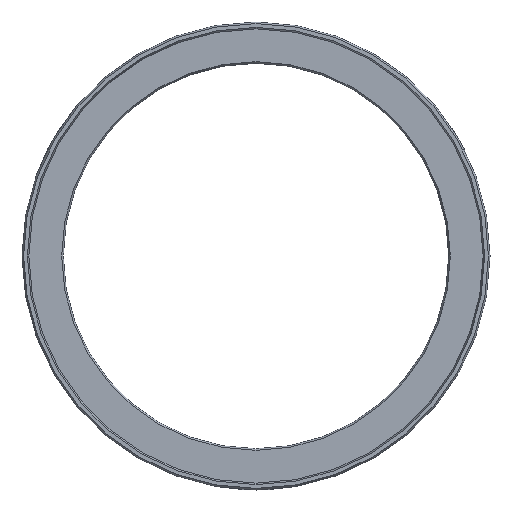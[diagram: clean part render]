
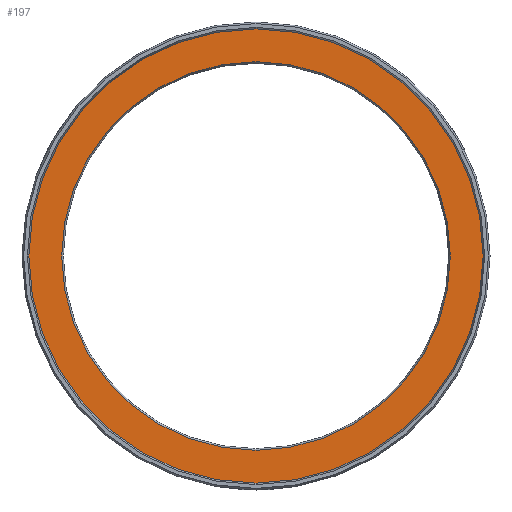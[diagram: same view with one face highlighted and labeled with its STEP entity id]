
A CAD part, left-side view. The second image highlights one B-rep face of the part: STEP entity #197.
In plain terms, the highlighted planar face has unit normal (-1, 0, 0).
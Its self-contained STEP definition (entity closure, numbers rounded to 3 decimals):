
#163=PLANE('',#797);
#197=ADVANCED_FACE('',(#265,#266),#163,.T.);
#265=FACE_BOUND('',#316,.T.);
#266=FACE_BOUND('',#317,.T.);
#316=EDGE_LOOP('',(#471));
#317=EDGE_LOOP('',(#472));
#471=ORIENTED_EDGE('',*,*,#652,.T.);
#472=ORIENTED_EDGE('',*,*,#651,.F.);
#569=VERTEX_POINT('',#1259);
#570=VERTEX_POINT('',#1262);
#651=EDGE_CURVE('',#569,#569,#709,.T.);
#652=EDGE_CURVE('',#570,#570,#710,.T.);
#709=CIRCLE('',#794,82.5);
#710=CIRCLE('',#796,70.577);
#794=AXIS2_PLACEMENT_3D('',#1258,#975,#976);
#796=AXIS2_PLACEMENT_3D('',#1261,#979,#980);
#797=AXIS2_PLACEMENT_3D('',#1263,#981,#982);
#975=DIRECTION('',(1.,0.,0.));
#976=DIRECTION('',(0.,0.,-1.));
#979=DIRECTION('',(1.,0.,0.));
#980=DIRECTION('',(0.,0.,1.));
#981=DIRECTION('',(-1.,0.,0.));
#982=DIRECTION('',(0.,0.,1.));
#1258=CARTESIAN_POINT('',(0.,0.,0.));
#1259=CARTESIAN_POINT('',(0.,0.,-82.5));
#1261=CARTESIAN_POINT('',(0.,0.,0.));
#1262=CARTESIAN_POINT('',(0.,0.,70.577));
#1263=CARTESIAN_POINT('',(0.,82.5,0.));
